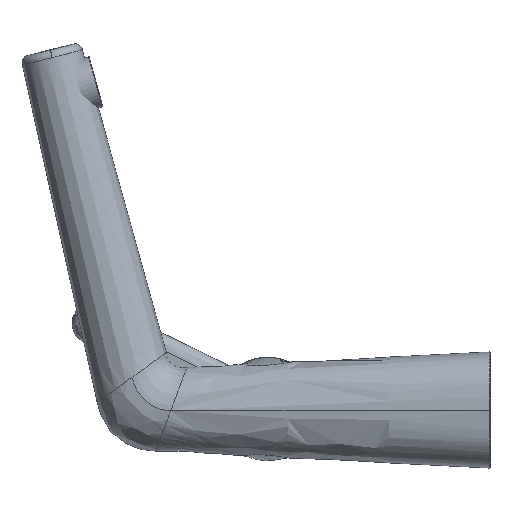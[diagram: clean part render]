
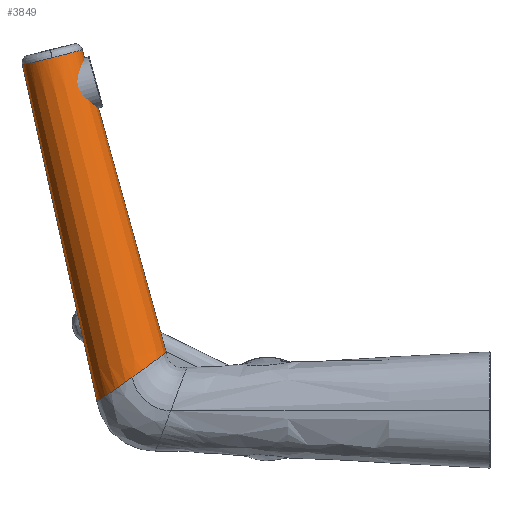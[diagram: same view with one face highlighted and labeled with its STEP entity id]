
A CAD part, left-side view. The second image highlights one B-rep face of the part: STEP entity #3849.
In plain terms, the highlighted conical face has half-angle 1.5 degrees and reference radius 12.248 mm.
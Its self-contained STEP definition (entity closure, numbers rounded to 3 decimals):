
#17 = LINE ( 'NONE', #2592, #3892 ) ;
#89 = CARTESIAN_POINT ( 'NONE',  ( -1.266, 161.409, 125.758 ) ) ;
#182 = CARTESIAN_POINT ( 'NONE',  ( 0.527, 155.595, -13.592 ) ) ;
#196 = CARTESIAN_POINT ( 'NONE',  ( -3.894, 128.63, 5.529 ) ) ;
#303 = CARTESIAN_POINT ( 'NONE',  ( -11.949, 167.308, 124.15 ) ) ;
#556 = CARTESIAN_POINT ( 'NONE',  ( -2.793, 185.177, 119.812 ) ) ;
#574 = ORIENTED_EDGE ( 'NONE', *, *, #5684, .F. ) ;
#586 = CARTESIAN_POINT ( 'NONE',  ( -13.166, 170.183, 123.417 ) ) ;
#857 = CARTESIAN_POINT ( 'NONE',  ( -13.146, 176.404, 121.866 ) ) ;
#867 = CARTESIAN_POINT ( 'NONE',  ( -15.262, 141.739, -3.941 ) ) ;
#997 = VERTEX_POINT ( 'NONE', #867 ) ;
#1162 = CARTESIAN_POINT ( 'NONE',  ( -10.998, 180.596, 120.849 ) ) ;
#1178 = CARTESIAN_POINT ( 'NONE',  ( -15.262, 141.835, -4.009 ) ) ;
#1206 = CARTESIAN_POINT ( 'NONE',  ( -8.724, 182.796, 120.329 ) ) ;
#1299 = CARTESIAN_POINT ( 'NONE',  ( -1.601, 155.499, -13.551 ) ) ;
#1322 = CARTESIAN_POINT ( 'NONE',  ( -15.262, 141.789, -3.976 ) ) ;
#1466 = CARTESIAN_POINT ( 'NONE',  ( -14.184, 136.685, -0.332 ) ) ;
#1501 = CARTESIAN_POINT ( 'NONE',  ( -7.363, 183.677, 120.127 ) ) ;
#1527 = CARTESIAN_POINT ( 'NONE',  ( -13.48, 171.738, 123.026 ) ) ;
#1551 = CARTESIAN_POINT ( 'NONE',  ( -11.045, 165.99, 124.49 ) ) ;
#1680 = CARTESIAN_POINT ( 'NONE',  ( -2.87, 161.409, 125.737 ) ) ;
#1812 = VERTEX_POINT ( 'NONE', #89 ) ;
#1841 = CARTESIAN_POINT ( 'NONE',  ( -4.697, 154.845, -13.126 ) ) ;
#1850 = CARTESIAN_POINT ( 'NONE',  ( -9.42, 131.08, 3.715 ) ) ;
#1919 = CARTESIAN_POINT ( 'NONE',  ( -13.475, 173.293, 122.638 ) ) ;
#1922 = B_SPLINE_CURVE_WITH_KNOTS ( 'NONE', 3,
 ( #2438, #1322, #1178, #4075, #6304, #2387, #2362, #6453, #6824, #6400, #5243, #1841, #5727, #1299, #7293, #4702, #3446, #182 ),
 .UNSPECIFIED., .F., .F.,
 ( 4, 2, 2, 2, 2, 2, 2, 2, 4 ),
 ( 0., 0.007, 0.255, 0.503, 0.628, 0.752, 0.876, 1., 1. ),
 .UNSPECIFIED. ) ;
#2021 = VECTOR ( 'NONE', #5085, 1000. ) ;
#2055 = CARTESIAN_POINT ( 'NONE',  ( -1.266, 161.409, 125.758 ) ) ;
#2115 = CARTESIAN_POINT ( 'NONE',  ( -11.91, 179.278, 121.166 ) ) ;
#2236 = EDGE_CURVE ( 'NONE', #6848, #5235, #17, .T. ) ;
#2296 = VERTEX_POINT ( 'NONE', #4708 ) ;
#2301 = DIRECTION ( 'NONE',  ( 0.013, -0.216, -0.976 ) ) ;
#2320 = CARTESIAN_POINT ( 'NONE',  ( -13.328, 135.107, 0.801 ) ) ;
#2362 = CARTESIAN_POINT ( 'NONE',  ( -12.216, 150.114, -9.857 ) ) ;
#2387 = CARTESIAN_POINT ( 'NONE',  ( -13.338, 148.599, -8.794 ) ) ;
#2438 = CARTESIAN_POINT ( 'NONE',  ( -15.262, 141.739, -3.941 ) ) ;
#2501 = CARTESIAN_POINT ( 'NONE',  ( -5.874, 129.235, 5.073 ) ) ;
#2513 = CONICAL_SURFACE ( 'NONE', #7000, 12.248, 0.026 ) ;
#2592 = CARTESIAN_POINT ( 'NONE',  ( -1.19, 185.177, 119.833 ) ) ;
#2696 = EDGE_LOOP ( 'NONE', ( #6928, #3743, #6048, #5027, #3410, #574 ) ) ;
#2819 = CARTESIAN_POINT ( 'NONE',  ( -1.19, 185.177, 119.833 ) ) ;
#2906 = B_SPLINE_CURVE_WITH_KNOTS ( 'NONE', 3,
 ( #3254, #3776, #3069, #196, #2501, #6851, #1850, #5499, #4062, #2320, #1466, #5758, #3761, #7145, #3616 ),
 .UNSPECIFIED., .F., .F.,
 ( 4, 1, 1, 1, 1, 1, 1, 1, 1, 1, 1, 1, 4 ),
 ( 0., 0.083, 0.167, 0.25, 0.333, 0.417, 0.5, 0.583, 0.667, 0.75, 0.833, 0.917, 1. ),
 .UNSPECIFIED. ) ;
#3052 = CARTESIAN_POINT ( 'NONE',  ( -13.475, 173.293, 122.638 ) ) ;
#3069 = CARTESIAN_POINT ( 'NONE',  ( -1.831, 128.256, 5.821 ) ) ;
#3254 = CARTESIAN_POINT ( 'NONE',  ( 0.276, 128.169, 5.91 ) ) ;
#3410 = ORIENTED_EDGE ( 'NONE', *, *, #4021, .F. ) ;
#3446 = CARTESIAN_POINT ( 'NONE',  ( 0.527, 155.595, -13.592 ) ) ;
#3616 = CARTESIAN_POINT ( 'NONE',  ( -15.262, 141.739, -3.941 ) ) ;
#3743 = ORIENTED_EDGE ( 'NONE', *, *, #7174, .T. ) ;
#3759 = CARTESIAN_POINT ( 'NONE',  ( -13.47, 174.849, 122.25 ) ) ;
#3761 = CARTESIAN_POINT ( 'NONE',  ( -15.174, 140.031, -2.725 ) ) ;
#3776 = CARTESIAN_POINT ( 'NONE',  ( -0.427, 128.169, 5.901 ) ) ;
#3849 = ADVANCED_FACE ( 'NONE', ( #3989 ), #2513, .T. ) ;
#3892 = VECTOR ( 'NONE', #2301, 1000. ) ;
#3989 = FACE_OUTER_BOUND ( 'NONE', #2696, .T. ) ;
#4021 = EDGE_CURVE ( 'NONE', #2296, #997, #2906, .T. ) ;
#4062 = CARTESIAN_POINT ( 'NONE',  ( -12.237, 133.63, 1.866 ) ) ;
#4075 = CARTESIAN_POINT ( 'NONE',  ( -15.245, 143.616, -5.275 ) ) ;
#4702 = CARTESIAN_POINT ( 'NONE',  ( 0.527, 155.595, -13.592 ) ) ;
#4708 = CARTESIAN_POINT ( 'NONE',  ( 0.276, 128.169, 5.91 ) ) ;
#4748 = CARTESIAN_POINT ( 'NONE',  ( -1.267, 161.409, 125.758 ) ) ;
#4786 = DIRECTION ( 'NONE',  ( -0.003, -0.97, 0.242 ) ) ;
#4807 = DIRECTION ( 'NONE',  ( 0.012, -0.242, -0.97 ) ) ;
#4842 = CARTESIAN_POINT ( 'NONE',  ( -4.471, 161.719, 125.64 ) ) ;
#5027 = ORIENTED_EDGE ( 'NONE', *, *, #5582, .F. ) ;
#5085 = DIRECTION ( 'NONE',  ( 0.012, -0.267, -0.964 ) ) ;
#5117 = CARTESIAN_POINT ( 'NONE',  ( -13.475, 173.293, 122.638 ) ) ;
#5119 = LINE ( 'NONE', #4748, #2021 ) ;
#5235 = VERTEX_POINT ( 'NONE', #6023 ) ;
#5243 = CARTESIAN_POINT ( 'NONE',  ( -6.635, 154.119, -12.634 ) ) ;
#5335 = CARTESIAN_POINT ( 'NONE',  ( -7.429, 162.909, 125.305 ) ) ;
#5416 = CARTESIAN_POINT ( 'NONE',  ( -1.228, 173.293, 122.795 ) ) ;
#5499 = CARTESIAN_POINT ( 'NONE',  ( -10.928, 132.279, 2.843 ) ) ;
#5527 = B_SPLINE_CURVE_WITH_KNOTS ( 'NONE', 3,
 ( #2055, #1680, #4842, #5335, #5875, #1551, #303, #586, #1527, #5117 ),
 .UNSPECIFIED., .F., .F.,
 ( 4, 2, 2, 2, 4 ),
 ( 0., 0.125, 0.25, 0.375, 0.5 ),
 .UNSPECIFIED. ) ;
#5582 = EDGE_CURVE ( 'NONE', #997, #5235, #1922, .T. ) ;
#5684 = EDGE_CURVE ( 'NONE', #1812, #2296, #5119, .T. ) ;
#5727 = CARTESIAN_POINT ( 'NONE',  ( -3.681, 155.124, -13.311 ) ) ;
#5758 = CARTESIAN_POINT ( 'NONE',  ( -14.8, 138.336, -1.515 ) ) ;
#5875 = CARTESIAN_POINT ( 'NONE',  ( -8.785, 163.79, 125.068 ) ) ;
#6023 = CARTESIAN_POINT ( 'NONE',  ( 0.527, 155.595, -13.592 ) ) ;
#6048 = ORIENTED_EDGE ( 'NONE', *, *, #2236, .T. ) ;
#6245 = CARTESIAN_POINT ( 'NONE',  ( -1.19, 185.177, 119.833 ) ) ;
#6254 = B_SPLINE_CURVE_WITH_KNOTS ( 'NONE', 3,
 ( #1919, #3759, #857, #2115, #1162, #1206, #1501, #6487, #556, #6245 ),
 .UNSPECIFIED., .F., .F.,
 ( 4, 2, 2, 2, 4 ),
 ( 0.5, 0.625, 0.75, 0.875, 1. ),
 .UNSPECIFIED. ) ;
#6304 = CARTESIAN_POINT ( 'NONE',  ( -14.852, 145.35, -6.503 ) ) ;
#6400 = CARTESIAN_POINT ( 'NONE',  ( -7.556, 153.672, -12.328 ) ) ;
#6453 = CARTESIAN_POINT ( 'NONE',  ( -10.067, 152.049, -11.206 ) ) ;
#6487 = CARTESIAN_POINT ( 'NONE',  ( -4.397, 184.868, 119.869 ) ) ;
#6508 = VERTEX_POINT ( 'NONE', #3052 ) ;
#6612 = EDGE_CURVE ( 'NONE', #1812, #6508, #5527, .T. ) ;
#6824 = CARTESIAN_POINT ( 'NONE',  ( -9.272, 152.637, -11.614 ) ) ;
#6848 = VERTEX_POINT ( 'NONE', #2819 ) ;
#6851 = CARTESIAN_POINT ( 'NONE',  ( -7.729, 130.057, 4.465 ) ) ;
#6928 = ORIENTED_EDGE ( 'NONE', *, *, #6612, .T. ) ;
#7000 = AXIS2_PLACEMENT_3D ( 'NONE', #5416, #4807, #4786 ) ;
#7145 = CARTESIAN_POINT ( 'NONE',  ( -15.26, 141.171, -3.537 ) ) ;
#7174 = EDGE_CURVE ( 'NONE', #6508, #6848, #6254, .T. ) ;
#7293 = CARTESIAN_POINT ( 'NONE',  ( -0.537, 155.595, -13.606 ) ) ;
